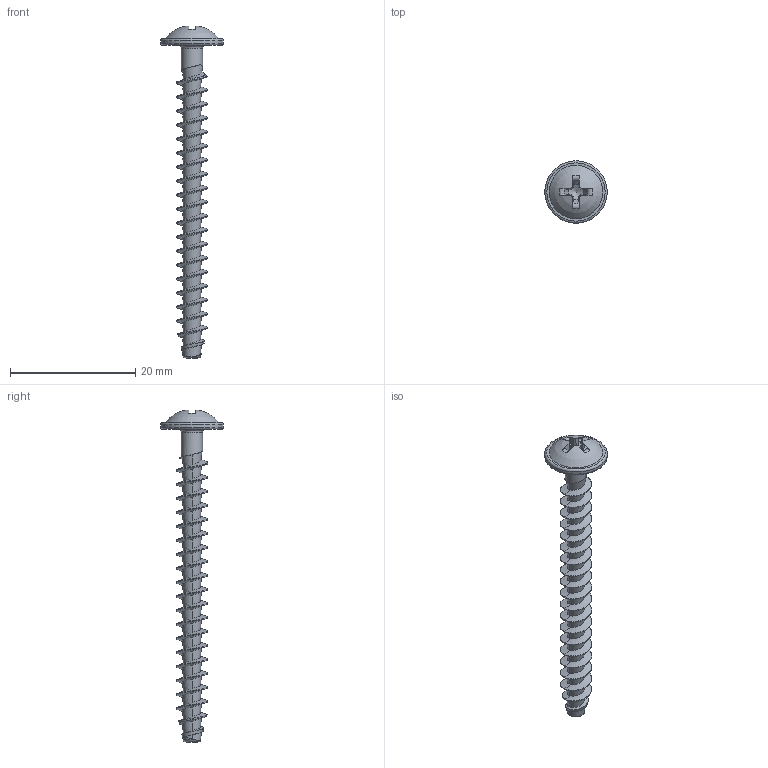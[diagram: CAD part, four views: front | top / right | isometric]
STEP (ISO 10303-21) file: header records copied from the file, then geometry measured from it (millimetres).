
FILE_DESCRIPTION(/* description */ (''),/* implementation_level */ '2;1');
FILE_NAME(/* name */ 'KN1031-Neu-STS-50x50-H2.step',/* time_stamp */ '2017-10-12T13:16:58+02:00',/* author */ (''),/* organization */ (''),/* preprocessor_version */ 'ST-DEVELOPER v16',/* originating_system */ 'SIEMENS PLM Software NX 10.0',/* authorisation */ '');
FILE_SCHEMA (('AUTOMOTIVE_DESIGN { 1 0 10303 214 3 1 1 1 }'));
Length unit declared in the file: millimetre
Products named in the file (1): KN1031-Neu-STS-50x50-H2
Bounding box: 10 x 10 x 53.11 mm (x, y, z)
Volume: 567.9 mm3; surface area: 1111.7 mm2
Topology: 1 solids, 1 shells, 104 faces, 259 edges, 158 vertices
Faces by surface type: bspline 65, plane 19, torus 8, cone 7, cylinder 4, sphere 1
Full cylindrical faces by diameter (mm): 3.39 x1, 10 x1
Entity records: 6999 total; most frequent: CARTESIAN_POINT 5030, ORIENTED_EDGE 486, EDGE_CURVE 243, DIRECTION 232, VERTEX_POINT 152, B_SPLINE_CURVE_WITH_KNOTS 129, EDGE_LOOP 112, ADVANCED_FACE 103
